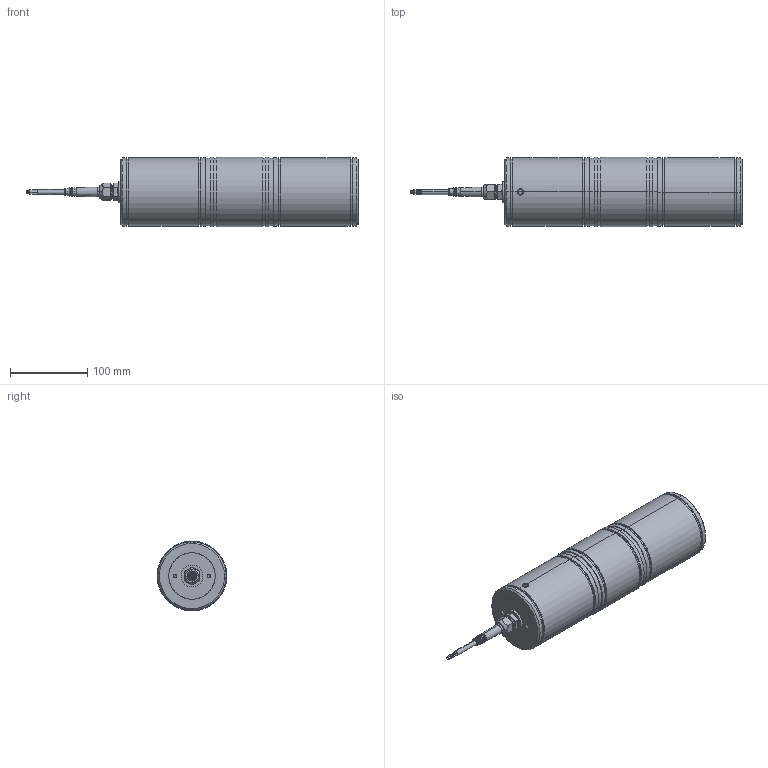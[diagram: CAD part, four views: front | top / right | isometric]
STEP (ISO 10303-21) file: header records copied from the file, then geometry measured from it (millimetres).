
FILE_DESCRIPTION (( 'STEP AP214' ), '1' );
FILE_NAME ('KISD-6R 200 kN Load Cell.STEP', '2021-06-30T12:10:40', ( '' ), ( '' ), 'SwSTEP 2.0', 'SolidWorks 2021', '' );
FILE_SCHEMA (( 'AUTOMOTIVE_DESIGN' ));
Length unit declared in the file: millimetre
Products named in the file (9): KISD-6R 200 kN Load Cell; 4102484E; spring pin slotted_ld_iso_ISO 13337 - 8 x 16 - St; Koenig-MB-600-140-monterad-colly_Koenig-MB-600-140-Colly; M26x1.5 - Pg9 - 6369829; Kabel; Pg9 - 1009.52 6_2_14; 700709 Silicone KISD 200kN; Hylsa 200 kN
Assembly tree (11 placements, depth 2):
  KISD-6R 200 kN Load Cell
    4102484E
    Hylsa 200 kN  x2
    M26x1.5 - Pg9 - 6369829
    Pg9 - 1009.52 6_2_14
    Kabel
    Koenig-MB-600-140-monterad-colly_Koenig-MB-600-140-Colly
    spring pin slotted_ld_iso_ISO 13337 - 8 x 16 - St  x2
    700709 Silicone KISD 200kN  x2
Bounding box: 428.5 x 90 x 90 mm (x, y, z)
Volume: 1827293.6 mm3; surface area: 220992.2 mm2
Topology: 11 solids, 14 shells, 372 faces, 830 edges, 517 vertices
Faces by surface type: cylinder 151, cone 101, plane 88, bspline 16, torus 14, sphere 2
Entity records: 14271 total; most frequent: CARTESIAN_POINT 6099, DIRECTION 1567, ORIENTED_EDGE 1414, EDGE_CURVE 707, AXIS2_PLACEMENT_3D 666, VERTEX_POINT 443, EDGE_LOOP 372, CIRCLE 347
